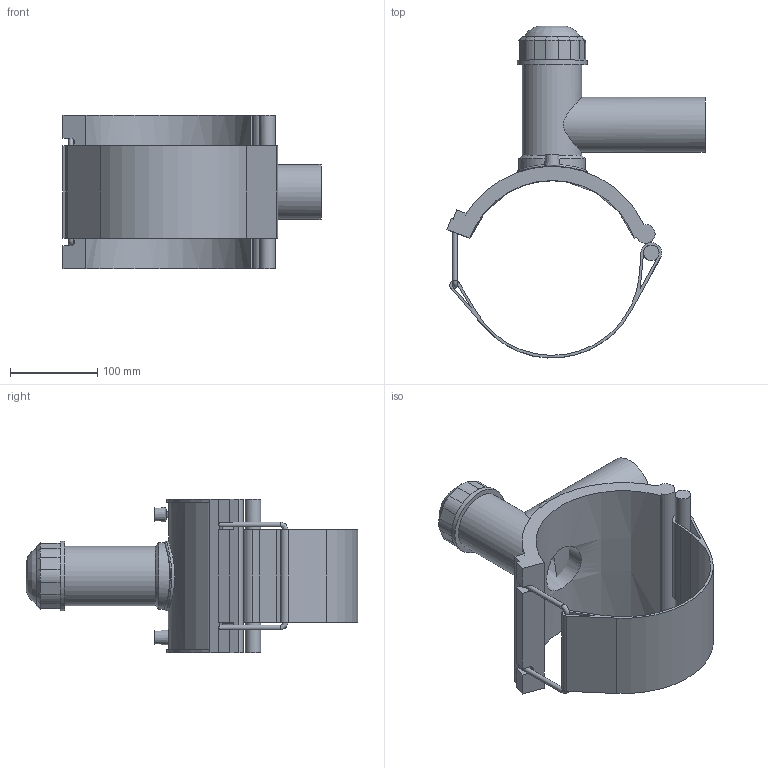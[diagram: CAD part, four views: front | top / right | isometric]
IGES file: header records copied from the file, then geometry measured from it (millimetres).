
Global section: file name: 496304200063.ipt; native system: Autodesk Inventor 2015; preprocessor: unknown; author: KIM; date: 20190124.131158; units: millimetre
Bounding box: 295.28 x 379.84 x 176 mm (x, y, z)
Volume: 1400546.7 mm3; surface area: 338381.6 mm2
Topology: 2 solids, 2 shells, 121 faces, 301 edges, 191 vertices
Faces by surface type: plane 68, cylinder 29, revolution 12, cone 11, bspline 1
Full cylindrical faces by diameter (mm): 4 x2, 5.6 x2, 17.692 x1, 63 x1, 68 x1, 76 x1, 80 x2
